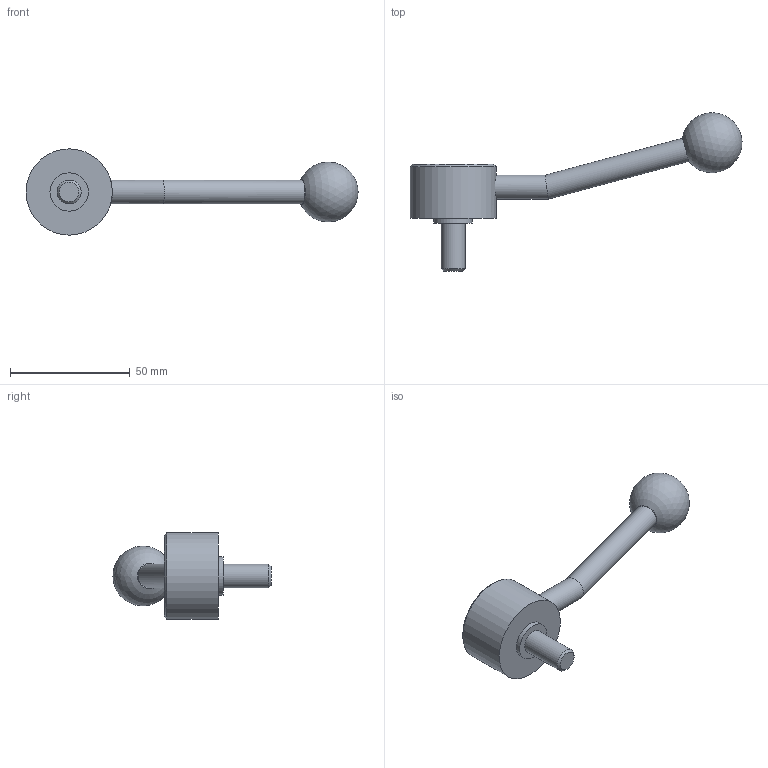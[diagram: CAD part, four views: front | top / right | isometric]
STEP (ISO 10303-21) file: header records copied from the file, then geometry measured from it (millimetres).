
FILE_DESCRIPTION( ( 'STEP AP203' ), '1' );
FILE_NAME( 'C:/Temp/Ganter_Step_05_03_2020/data/2_1/gn_125/gn_125_ms/gn_125_ms_e/Flat Adjustable Lever GN 125-36-M10-20-E.stp', '2020-03-05T11:00:57', ( 'License CC BY-ND 4.0' ), ( 'CADENAS' ), ' ', 'PARTsolutions', ' ' );
FILE_SCHEMA( ( 'CONFIG_CONTROL_DESIGN' ) );
Length unit declared in the file: millimetre
Products named in the file (1): _Flat Adjustable Lever GN 125-36-M10-20-E
Bounding box: 138.41 x 65.93 x 36 mm (x, y, z)
Volume: 39180.1 mm3; surface area: 9602.4 mm2
Topology: 1 solids, 1 shells, 15 faces, 25 edges, 16 vertices
Faces by surface type: cylinder 6, plane 6, cone 2, sphere 1
Full cylindrical faces by diameter (mm): 10 x3, 16 x1, 26 x1, 36 x1
Entity records: 412 total; most frequent: CARTESIAN_POINT 118, DIRECTION 58, AXIS2_PLACEMENT_3D 29, EDGE_LOOP 28, ORIENTED_EDGE 28, FACE_OUTER_BOUND 21, ADVANCED_FACE 15, VERTEX_POINT 15
